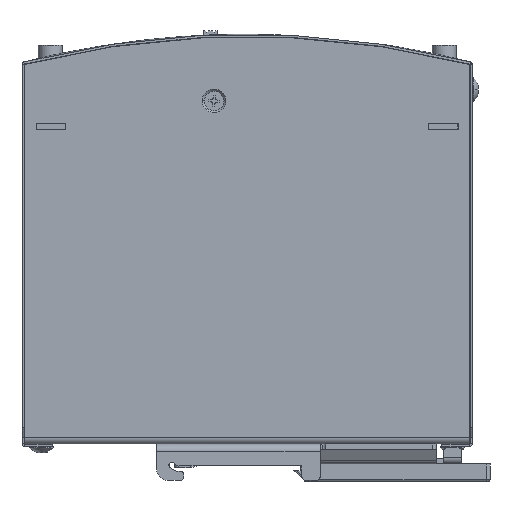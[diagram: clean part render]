
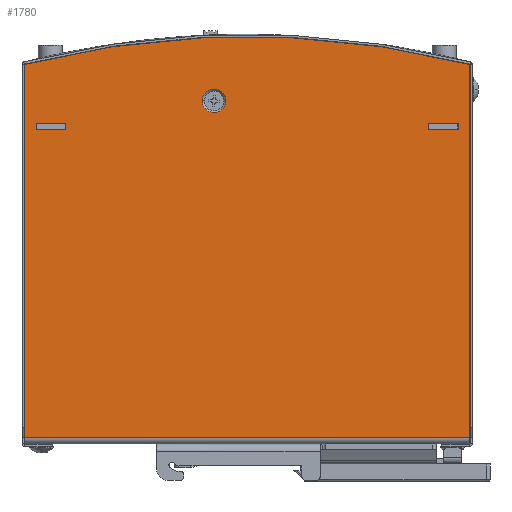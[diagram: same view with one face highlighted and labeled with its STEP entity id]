
A CAD part, left-side view. The second image highlights one B-rep face of the part: STEP entity #1780.
In plain terms, the highlighted planar face has unit normal (-1, 0, 0).
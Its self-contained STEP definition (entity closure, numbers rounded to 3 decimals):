
#621=DIRECTION('',(0.,0.,1.));
#622=VECTOR('',#621,102.828);
#623=CARTESIAN_POINT('',(-16.,-61.3,1.7));
#624=LINE('',#623,#622);
#625=DIRECTION('',(0.,0.,-1.));
#626=VECTOR('',#625,102.828);
#627=CARTESIAN_POINT('',(-16.,61.3,104.528));
#628=LINE('',#627,#626);
#629=CARTESIAN_POINT('',(-16.,0.,-137.84));
#630=DIRECTION('',(1.,0.,0.));
#631=DIRECTION('',(0.,0.245,0.969));
#632=AXIS2_PLACEMENT_3D('',#629,#630,#631);
#634=DIRECTION('',(0.,1.,0.));
#635=VECTOR('',#634,8.2);
#636=CARTESIAN_POINT('',(-16.,49.9,88.4));
#637=LINE('',#636,#635);
#638=DIRECTION('',(0.,0.,-1.));
#639=VECTOR('',#638,1.8);
#640=CARTESIAN_POINT('',(-16.,58.1,88.4));
#641=LINE('',#640,#639);
#642=DIRECTION('',(0.,-1.,0.));
#643=VECTOR('',#642,8.2);
#644=CARTESIAN_POINT('',(-16.,58.1,86.6));
#645=LINE('',#644,#643);
#646=DIRECTION('',(0.,0.,1.));
#647=VECTOR('',#646,1.8);
#648=CARTESIAN_POINT('',(-16.,49.9,86.6));
#649=LINE('',#648,#647);
#650=DIRECTION('',(0.,0.,1.));
#651=VECTOR('',#650,1.8);
#652=CARTESIAN_POINT('',(-16.,-58.1,86.6));
#653=LINE('',#652,#651);
#654=DIRECTION('',(0.,1.,0.));
#655=VECTOR('',#654,8.2);
#656=CARTESIAN_POINT('',(-16.,-58.1,88.4));
#657=LINE('',#656,#655);
#658=DIRECTION('',(0.,0.,-1.));
#659=VECTOR('',#658,1.8);
#660=CARTESIAN_POINT('',(-16.,-49.9,88.4));
#661=LINE('',#660,#659);
#662=DIRECTION('',(0.,-1.,0.));
#663=VECTOR('',#662,8.2);
#664=CARTESIAN_POINT('',(-16.,-49.9,86.6));
#665=LINE('',#664,#663);
#666=CARTESIAN_POINT('',(-16.,9.1,94.489));
#667=DIRECTION('',(1.,0.,0.));
#668=DIRECTION('',(0.,1.,0.));
#669=AXIS2_PLACEMENT_3D('',#666,#667,#668);
#671=CARTESIAN_POINT('',(-16.,9.1,94.489));
#672=DIRECTION('',(1.,0.,0.));
#673=DIRECTION('',(0.,-1.,0.));
#674=AXIS2_PLACEMENT_3D('',#671,#672,#673);
#676=DIRECTION('',(0.,-1.,0.));
#677=VECTOR('',#676,122.6);
#678=CARTESIAN_POINT('',(-16.,61.3,1.7));
#679=LINE('',#678,#677);
#985=CARTESIAN_POINT('',(-16.,-61.3,1.7));
#986=CARTESIAN_POINT('',(-16.,-61.3,104.528));
#987=VERTEX_POINT('',#985);
#988=VERTEX_POINT('',#986);
#989=CARTESIAN_POINT('',(-16.,61.3,104.528));
#990=VERTEX_POINT('',#989);
#991=CARTESIAN_POINT('',(-16.,61.3,1.7));
#992=VERTEX_POINT('',#991);
#1009=CARTESIAN_POINT('',(-16.,58.1,88.4));
#1010=CARTESIAN_POINT('',(-16.,49.9,88.4));
#1011=VERTEX_POINT('',#1009);
#1012=VERTEX_POINT('',#1010);
#1013=CARTESIAN_POINT('',(-16.,49.9,86.6));
#1014=VERTEX_POINT('',#1013);
#1015=CARTESIAN_POINT('',(-16.,58.1,86.6));
#1016=VERTEX_POINT('',#1015);
#1017=CARTESIAN_POINT('',(-16.,-58.1,88.4));
#1018=CARTESIAN_POINT('',(-16.,-58.1,86.6));
#1019=VERTEX_POINT('',#1017);
#1020=VERTEX_POINT('',#1018);
#1021=CARTESIAN_POINT('',(-16.,-49.9,86.6));
#1022=VERTEX_POINT('',#1021);
#1023=CARTESIAN_POINT('',(-16.,-49.9,88.4));
#1024=VERTEX_POINT('',#1023);
#1105=CARTESIAN_POINT('',(-16.,12.35,94.489));
#1106=CARTESIAN_POINT('',(-16.,5.85,94.489));
#1107=VERTEX_POINT('',#1105);
#1108=VERTEX_POINT('',#1106);
#1739=CARTESIAN_POINT('',(-16.,32.17,0.));
#1740=DIRECTION('',(-1.,0.,0.));
#1741=DIRECTION('',(0.,-1.,0.));
#1742=AXIS2_PLACEMENT_3D('',#1739,#1740,#1741);
#1743=PLANE('',#1742);
#1745=ORIENTED_EDGE('',*,*,#1744,.F.);
#1747=ORIENTED_EDGE('',*,*,#1746,.F.);
#1749=ORIENTED_EDGE('',*,*,#1748,.F.);
#1751=ORIENTED_EDGE('',*,*,#1750,.T.);
#1752=EDGE_LOOP('',(#1745,#1747,#1749,#1751));
#1753=FACE_OUTER_BOUND('',#1752,.F.);
#1755=ORIENTED_EDGE('',*,*,#1754,.T.);
#1757=ORIENTED_EDGE('',*,*,#1756,.T.);
#1759=ORIENTED_EDGE('',*,*,#1758,.T.);
#1761=ORIENTED_EDGE('',*,*,#1760,.T.);
#1762=EDGE_LOOP('',(#1755,#1757,#1759,#1761));
#1763=FACE_BOUND('',#1762,.F.);
#1765=ORIENTED_EDGE('',*,*,#1764,.T.);
#1767=ORIENTED_EDGE('',*,*,#1766,.T.);
#1769=ORIENTED_EDGE('',*,*,#1768,.T.);
#1771=ORIENTED_EDGE('',*,*,#1770,.T.);
#1772=EDGE_LOOP('',(#1765,#1767,#1769,#1771));
#1773=FACE_BOUND('',#1772,.F.);
#1775=ORIENTED_EDGE('',*,*,#1774,.F.);
#1777=ORIENTED_EDGE('',*,*,#1776,.F.);
#1778=EDGE_LOOP('',(#1775,#1777));
#1779=FACE_BOUND('',#1778,.F.);
#1780=ADVANCED_FACE('',(#1753,#1763,#1773,#1779),#1743,.T.);
#633=CIRCLE('',#632,250.);
#670=CIRCLE('',#669,3.25);
#675=CIRCLE('',#674,3.25);
#1744=EDGE_CURVE('',#987,#988,#624,.T.);
#1746=EDGE_CURVE('',#992,#987,#679,.T.);
#1748=EDGE_CURVE('',#990,#992,#628,.T.);
#1750=EDGE_CURVE('',#990,#988,#633,.T.);
#1754=EDGE_CURVE('',#1012,#1011,#637,.T.);
#1756=EDGE_CURVE('',#1011,#1016,#641,.T.);
#1758=EDGE_CURVE('',#1016,#1014,#645,.T.);
#1760=EDGE_CURVE('',#1014,#1012,#649,.T.);
#1764=EDGE_CURVE('',#1020,#1019,#653,.T.);
#1766=EDGE_CURVE('',#1019,#1024,#657,.T.);
#1768=EDGE_CURVE('',#1024,#1022,#661,.T.);
#1770=EDGE_CURVE('',#1022,#1020,#665,.T.);
#1774=EDGE_CURVE('',#1107,#1108,#670,.T.);
#1776=EDGE_CURVE('',#1108,#1107,#675,.T.);
